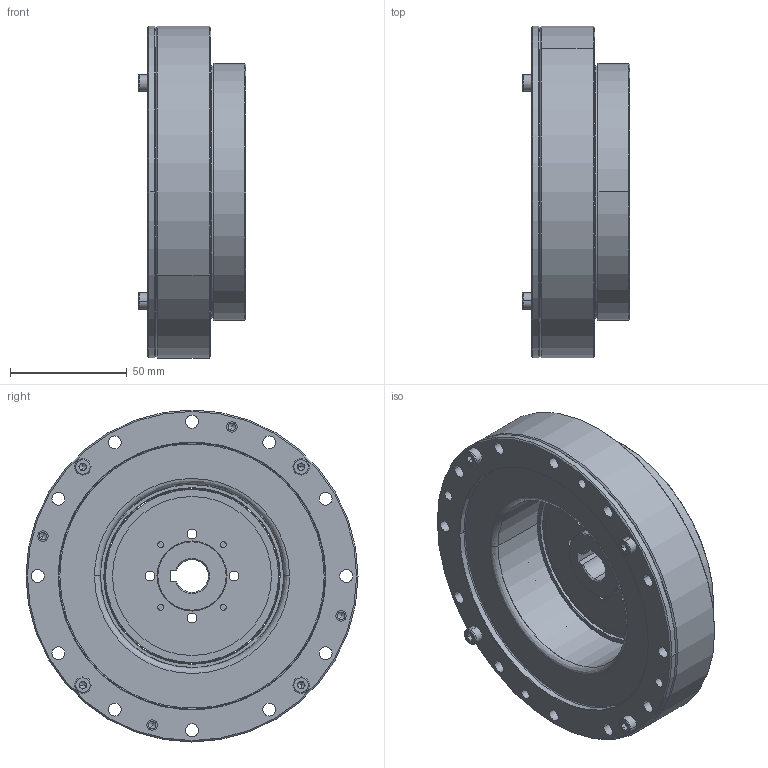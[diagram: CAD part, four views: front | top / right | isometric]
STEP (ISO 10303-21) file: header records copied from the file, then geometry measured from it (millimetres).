
FILE_DESCRIPTION (( 'STEP AP203' ), '1' );
FILE_NAME ('LHS-32-XXX-C-I.step', '2025-01-07T06:45:21', ( '' ), ( '' ), 'SwSTEP 2.0', 'SolidWorks 2023', '' );
FILE_SCHEMA (( 'CONFIG_CONTROL_DESIGN' ));
Length unit declared in the file: millimetre
Products named in the file (1): LHS-32-XXX-C-I
Bounding box: 46 x 142 x 142 mm (x, y, z)
Volume: 320433.4 mm3; surface area: 181735.5 mm2
Topology: 45 solids, 45 shells, 1040 faces, 2569 edges, 1515 vertices
Faces by surface type: cylinder 399, plane 303, cone 210, bspline 128
Entity records: 34231 total; most frequent: CARTESIAN_POINT 9941, DIRECTION 5393, ORIENTED_EDGE 4790, EDGE_CURVE 2395, AXIS2_PLACEMENT_3D 2209, VERTEX_POINT 1515, CIRCLE 1296, EDGE_LOOP 1274
